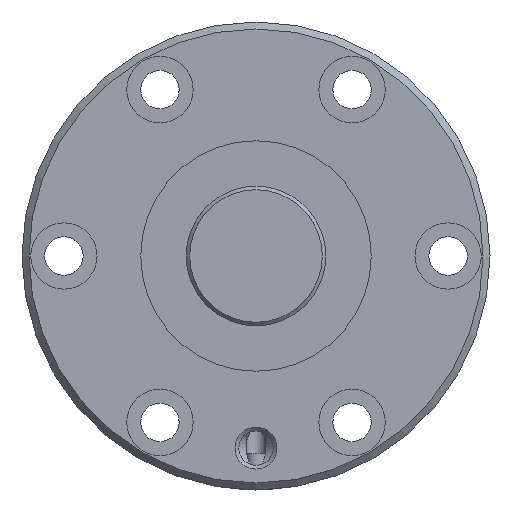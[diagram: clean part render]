
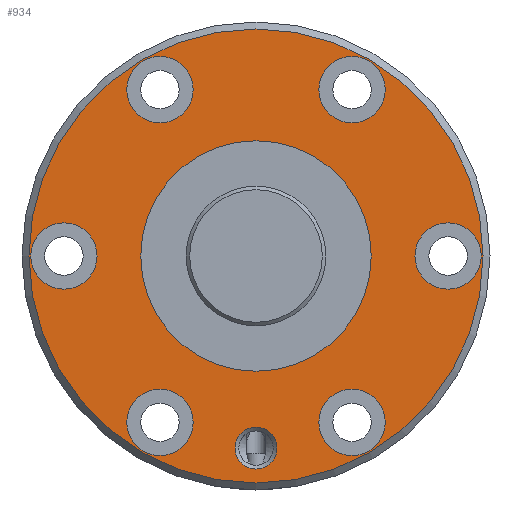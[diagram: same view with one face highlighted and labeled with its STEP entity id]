
A CAD part, left-side view. The second image highlights one B-rep face of the part: STEP entity #934.
In plain terms, the highlighted planar face has unit normal (-1, 0, 0).
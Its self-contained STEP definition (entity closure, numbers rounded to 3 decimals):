
#97=PLANE('',#1044);
#156=ORIENTED_EDGE('',*,*,#358,.T.);
#157=ORIENTED_EDGE('',*,*,#359,.T.);
#158=ORIENTED_EDGE('',*,*,#360,.T.);
#159=ORIENTED_EDGE('',*,*,#361,.T.);
#160=ORIENTED_EDGE('',*,*,#362,.T.);
#161=ORIENTED_EDGE('',*,*,#363,.T.);
#162=ORIENTED_EDGE('',*,*,#364,.T.);
#163=ORIENTED_EDGE('',*,*,#365,.T.);
#164=ORIENTED_EDGE('',*,*,#357,.F.);
#357=EDGE_CURVE('',#463,#463,#548,.T.);
#358=EDGE_CURVE('',#464,#464,#549,.T.);
#359=EDGE_CURVE('',#465,#465,#550,.F.);
#360=EDGE_CURVE('',#466,#466,#551,.T.);
#361=EDGE_CURVE('',#467,#467,#552,.T.);
#362=EDGE_CURVE('',#468,#468,#553,.T.);
#363=EDGE_CURVE('',#469,#469,#554,.T.);
#364=EDGE_CURVE('',#470,#470,#555,.T.);
#365=EDGE_CURVE('',#471,#471,#556,.T.);
#463=VERTEX_POINT('',#1564);
#464=VERTEX_POINT('',#1567);
#465=VERTEX_POINT('',#1569);
#466=VERTEX_POINT('',#1571);
#467=VERTEX_POINT('',#1573);
#468=VERTEX_POINT('',#1575);
#469=VERTEX_POINT('',#1577);
#470=VERTEX_POINT('',#1579);
#471=VERTEX_POINT('',#1581);
#548=CIRCLE('',#1043,32.5);
#549=CIRCLE('',#1045,16.5);
#550=CIRCLE('',#1046,4.75);
#551=CIRCLE('',#1047,3.);
#552=CIRCLE('',#1048,4.75);
#553=CIRCLE('',#1049,4.75);
#554=CIRCLE('',#1050,4.75);
#555=CIRCLE('',#1051,4.75);
#556=CIRCLE('',#1052,4.75);
#631=EDGE_LOOP('',(#156));
#632=EDGE_LOOP('',(#157));
#633=EDGE_LOOP('',(#158));
#634=EDGE_LOOP('',(#159));
#635=EDGE_LOOP('',(#160));
#636=EDGE_LOOP('',(#161));
#637=EDGE_LOOP('',(#162));
#638=EDGE_LOOP('',(#163));
#639=EDGE_LOOP('',(#164));
#773=FACE_BOUND('',#631,.T.);
#774=FACE_BOUND('',#632,.T.);
#775=FACE_BOUND('',#633,.T.);
#776=FACE_BOUND('',#634,.T.);
#777=FACE_BOUND('',#635,.T.);
#778=FACE_BOUND('',#636,.T.);
#779=FACE_BOUND('',#637,.T.);
#780=FACE_BOUND('',#638,.T.);
#781=FACE_BOUND('',#639,.T.);
#934=ADVANCED_FACE('',(#773,#774,#775,#776,#777,#778,#779,#780,#781),#97,
 .T.);
#1043=AXIS2_PLACEMENT_3D('',#1563,#1217,#1218);
#1044=AXIS2_PLACEMENT_3D('',#1565,#1219,#1220);
#1045=AXIS2_PLACEMENT_3D('',#1566,#1221,#1222);
#1046=AXIS2_PLACEMENT_3D('',#1568,#1223,#1224);
#1047=AXIS2_PLACEMENT_3D('',#1570,#1225,#1226);
#1048=AXIS2_PLACEMENT_3D('',#1572,#1227,#1228);
#1049=AXIS2_PLACEMENT_3D('',#1574,#1229,#1230);
#1050=AXIS2_PLACEMENT_3D('',#1576,#1231,#1232);
#1051=AXIS2_PLACEMENT_3D('',#1578,#1233,#1234);
#1052=AXIS2_PLACEMENT_3D('',#1580,#1235,#1236);
#1217=DIRECTION('',(1.,0.,0.));
#1218=DIRECTION('',(0.,0.,-1.));
#1219=DIRECTION('',(-1.,0.,0.));
#1220=DIRECTION('',(0.,0.,1.));
#1221=DIRECTION('',(1.,0.,0.));
#1222=DIRECTION('',(0.,0.,-1.));
#1223=DIRECTION('',(-1.,0.,0.));
#1224=DIRECTION('',(0.,0.,1.));
#1225=DIRECTION('',(1.,0.,0.));
#1226=DIRECTION('',(0.,0.,-1.));
#1227=DIRECTION('',(1.,0.,0.));
#1228=DIRECTION('',(0.,0.,-1.));
#1229=DIRECTION('',(1.,0.,0.));
#1230=DIRECTION('',(0.,0.,-1.));
#1231=DIRECTION('',(1.,0.,0.));
#1232=DIRECTION('',(0.,0.,-1.));
#1233=DIRECTION('',(1.,0.,0.));
#1234=DIRECTION('',(0.,0.,-1.));
#1235=DIRECTION('',(1.,0.,0.));
#1236=DIRECTION('',(0.,0.,-1.));
#1563=CARTESIAN_POINT('',(0.,0.,0.));
#1564=CARTESIAN_POINT('',(0.,0.,-32.5));
#1565=CARTESIAN_POINT('',(0.,32.5,0.));
#1566=CARTESIAN_POINT('',(0.,0.,0.));
#1567=CARTESIAN_POINT('',(0.,0.,-16.5));
#1568=CARTESIAN_POINT('',(0.,27.5,0.));
#1569=CARTESIAN_POINT('',(0.,27.5,4.75));
#1570=CARTESIAN_POINT('',(0.,0.,-27.5));
#1571=CARTESIAN_POINT('',(0.,0.,-30.5));
#1572=CARTESIAN_POINT('',(0.,-27.5,0.));
#1573=CARTESIAN_POINT('',(0.,-27.5,-4.75));
#1574=CARTESIAN_POINT('',(0.,13.75,23.816));
#1575=CARTESIAN_POINT('',(0.,13.75,19.066));
#1576=CARTESIAN_POINT('',(0.,-13.75,-23.816));
#1577=CARTESIAN_POINT('',(0.,-13.75,-28.566));
#1578=CARTESIAN_POINT('',(0.,-13.75,23.816));
#1579=CARTESIAN_POINT('',(0.,-13.75,19.066));
#1580=CARTESIAN_POINT('',(0.,13.75,-23.816));
#1581=CARTESIAN_POINT('',(0.,13.75,-28.566));
